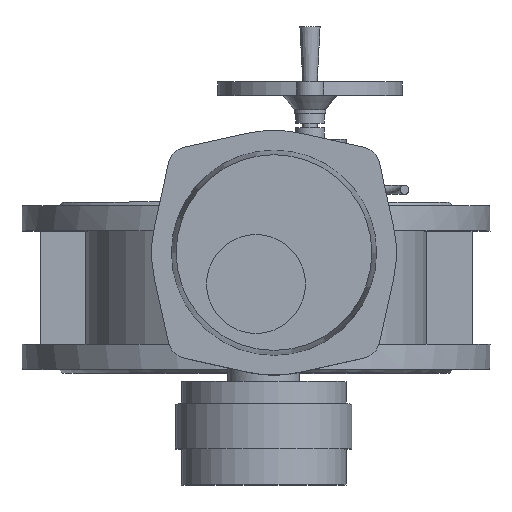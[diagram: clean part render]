
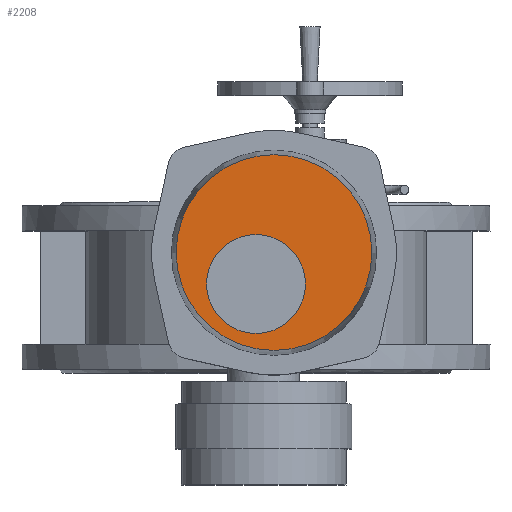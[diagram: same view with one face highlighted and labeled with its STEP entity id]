
A CAD part, top view. The second image highlights one B-rep face of the part: STEP entity #2208.
In plain terms, the highlighted planar face has unit normal (0, 0, 1).
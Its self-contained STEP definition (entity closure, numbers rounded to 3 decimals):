
#2208=ADVANCED_FACE('',(#4576,#4578),#4580,.T.);
#4576=FACE_BOUND('',#4577,.T.);
#4577=EDGE_LOOP('',(#6336));
#4578=FACE_BOUND('',#4579,.T.);
#4579=EDGE_LOOP('',(#6337));
#4580=PLANE('',#4581);
#4581=AXIS2_PLACEMENT_3D('',#4582,#4583,#4584);
#4582=CARTESIAN_POINT('',(20.,38.,648.));
#4583=DIRECTION('',(0.,0.,1.));
#4584=DIRECTION('',(-1.,0.,0.));
#6336=ORIENTED_EDGE('',*,*,#7192,.T.);
#6337=ORIENTED_EDGE('',*,*,#7240,.F.);
#7192=EDGE_CURVE('',#8421,#8421,#8422,.T.);
#7240=EDGE_CURVE('',#8483,#8483,#8484,.T.);
#8421=VERTEX_POINT('',#12361);
#8422=CIRCLE('',#12362,108.707);
#8483=VERTEX_POINT('',#12549);
#8484=CIRCLE('',#12550,55.);
#12361=CARTESIAN_POINT('',(-88.707,38.,648.));
#12362=AXIS2_PLACEMENT_3D('',#12363,#12364,#12365);
#12363=CARTESIAN_POINT('',(20.,38.,648.));
#12364=DIRECTION('',(0.,0.,1.));
#12365=DIRECTION('',(-1.,0.,0.));
#12549=CARTESIAN_POINT('',(-55.,3.,648.));
#12550=AXIS2_PLACEMENT_3D('',#12551,#12552,#12553);
#12551=CARTESIAN_POINT('',(0.,3.,648.));
#12552=DIRECTION('',(0.,0.,1.));
#12553=DIRECTION('',(-1.,0.,0.));
